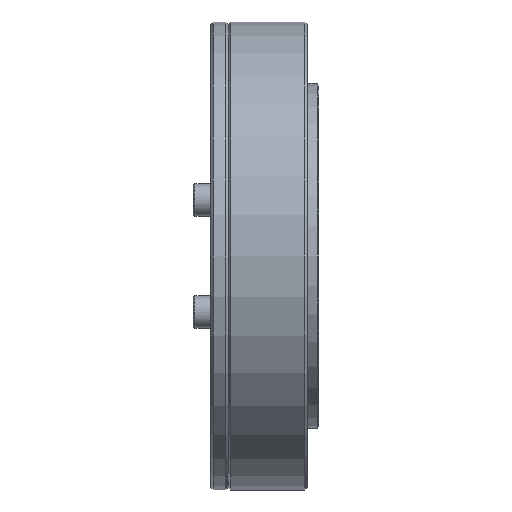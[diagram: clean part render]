
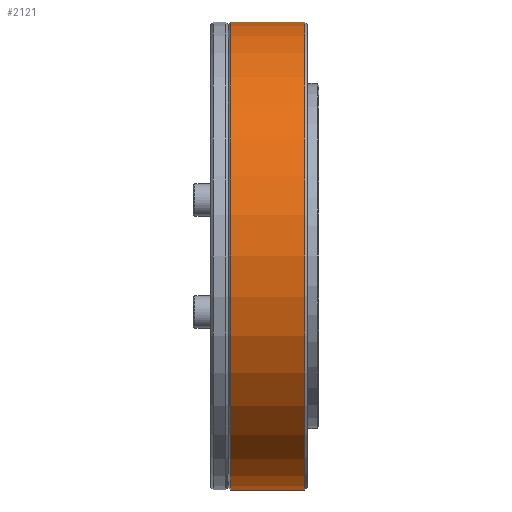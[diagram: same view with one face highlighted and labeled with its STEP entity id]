
A CAD part, front view. The second image highlights one B-rep face of the part: STEP entity #2121.
In plain terms, the highlighted cylindrical face has radius 40 mm (diameter 80 mm), a full revolution.
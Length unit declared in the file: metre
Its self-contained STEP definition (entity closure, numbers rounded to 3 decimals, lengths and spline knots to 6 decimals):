
#730 = VERTEX_POINT ( 'NONE', #19307 ) ;
#756 = EDGE_CURVE ( 'NONE', #11914, #11914, #19182, .T. ) ;
#1115 = DIRECTION ( 'NONE',  ( 0., -0.5, -0.866 ) ) ;
#1181 = AXIS2_PLACEMENT_3D ( 'NONE', #9288, #18278, #1115 ) ;
#1535 = CIRCLE ( 'NONE', #1181, 0.04 ) ;
#2121 = ADVANCED_FACE ( 'NONE', ( #21405, #21087 ), #17705, .T. ) ;
#2813 = DIRECTION ( 'NONE',  ( 0., -0.5, -0.866 ) ) ;
#3690 = CARTESIAN_POINT ( 'NONE',  ( -0.007, 0., 0. ) ) ;
#6485 = CARTESIAN_POINT ( 'NONE',  ( -0.0017, 0., 0. ) ) ;
#6499 = EDGE_LOOP ( 'NONE', ( #10484 ) ) ;
#7014 = CARTESIAN_POINT ( 'NONE',  ( -0.007, -0.02, -0.034641 ) ) ;
#9288 = CARTESIAN_POINT ( 'NONE',  ( 0.0057, 0., 0. ) ) ;
#9385 = ORIENTED_EDGE ( 'NONE', *, *, #18054, .T. ) ;
#10317 = DIRECTION ( 'NONE',  ( 1., 0., 0. ) ) ;
#10484 = ORIENTED_EDGE ( 'NONE', *, *, #756, .T. ) ;
#11914 = VERTEX_POINT ( 'NONE', #7014 ) ;
#13136 = DIRECTION ( 'NONE',  ( -1., 0., 0. ) ) ;
#14012 = EDGE_LOOP ( 'NONE', ( #9385 ) ) ;
#15395 = AXIS2_PLACEMENT_3D ( 'NONE', #3690, #10317, #16966 ) ;
#16966 = DIRECTION ( 'NONE',  ( 0., -0.5, -0.866 ) ) ;
#17705 = CYLINDRICAL_SURFACE ( 'NONE', #19923, 0.04 ) ;
#18054 = EDGE_CURVE ( 'NONE', #730, #730, #1535, .T. ) ;
#18278 = DIRECTION ( 'NONE',  ( -1., 0., 0. ) ) ;
#19182 = CIRCLE ( 'NONE', #15395, 0.04 ) ;
#19307 = CARTESIAN_POINT ( 'NONE',  ( 0.0057, -0.02, -0.034641 ) ) ;
#19923 = AXIS2_PLACEMENT_3D ( 'NONE', #6485, #13136, #2813 ) ;
#21087 = FACE_OUTER_BOUND ( 'NONE', #6499, .T. ) ;
#21405 = FACE_OUTER_BOUND ( 'NONE', #14012, .T. ) ;
